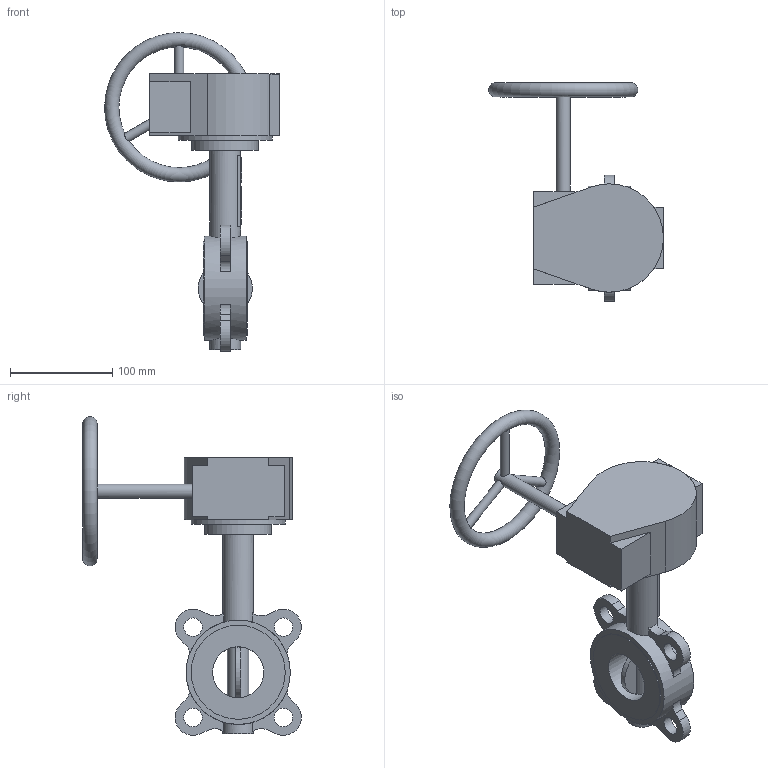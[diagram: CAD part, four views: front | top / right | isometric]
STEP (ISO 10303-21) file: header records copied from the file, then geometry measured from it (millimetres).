
FILE_DESCRIPTION(('STEP AP203'), '1');
FILE_NAME('青蜮铕 015WDN50 疱潴牝铕', '', ('UNSPECIFIED'), ('UNSPECIFIED'), 'ASCON STEP Converter 1.6', 'ASCON Math Kernel', '');
FILE_SCHEMA(('CONFIG_CONTROL_DESIGN'));
Length unit declared in the file: millimetre
Bounding box: 170.99 x 213.63 x 311.59 mm (x, y, z)
Volume: 807275.3 mm3; surface area: 147317.8 mm2
Topology: 1 solids, 2 shells, 637 faces, 1853 edges, 1190 vertices
Faces by surface type: cylinder 442, plane 194, torus 1
Full cylindrical faces by diameter (mm): 6.7 x4, 8 x4, 9 x3, 12.6 x1, 14 x1, 18 x4, 21 x1, 30 x2, 35 x1, 50 x1, 65 x1, 92 x3, 102 x1
Entity records: 28188 total; most frequent: CARTESIAN_POINT 5461, DIRECTION 4006, ORIENTED_EDGE 3585, EDGE_CURVE 1824, AXIS2_PLACEMENT_3D 1572, VERTEX_POINT 1189, CIRCLE 934, LINE 862
